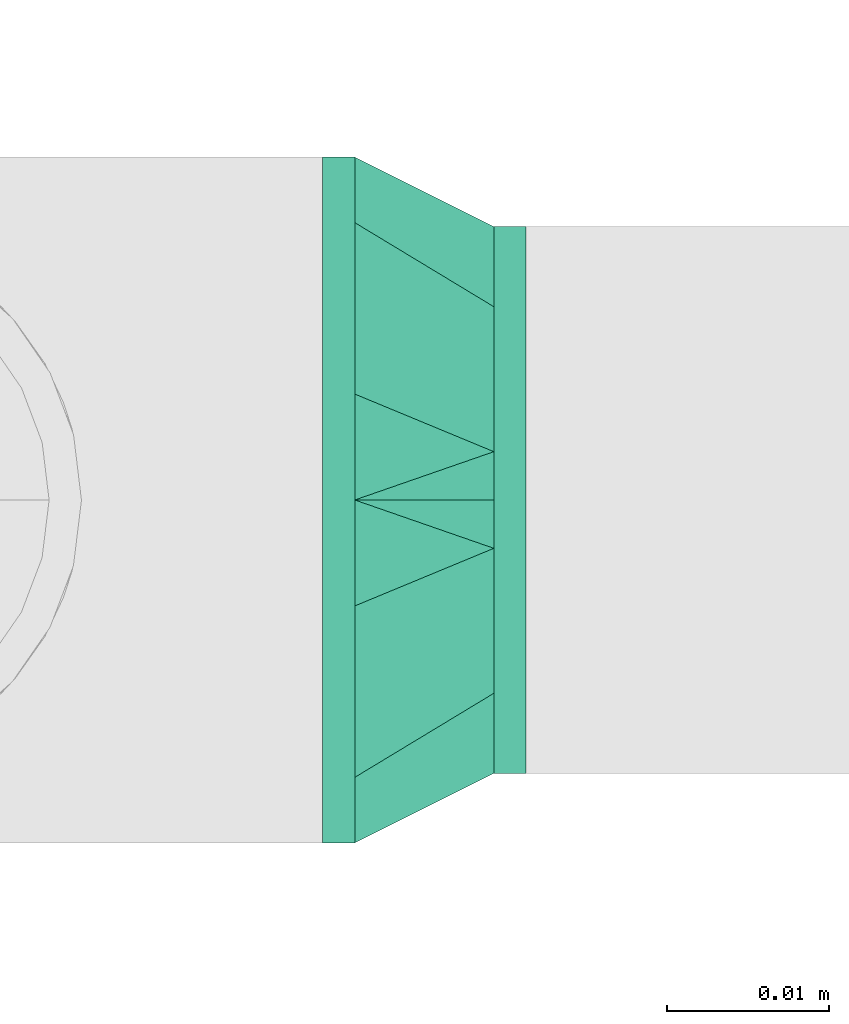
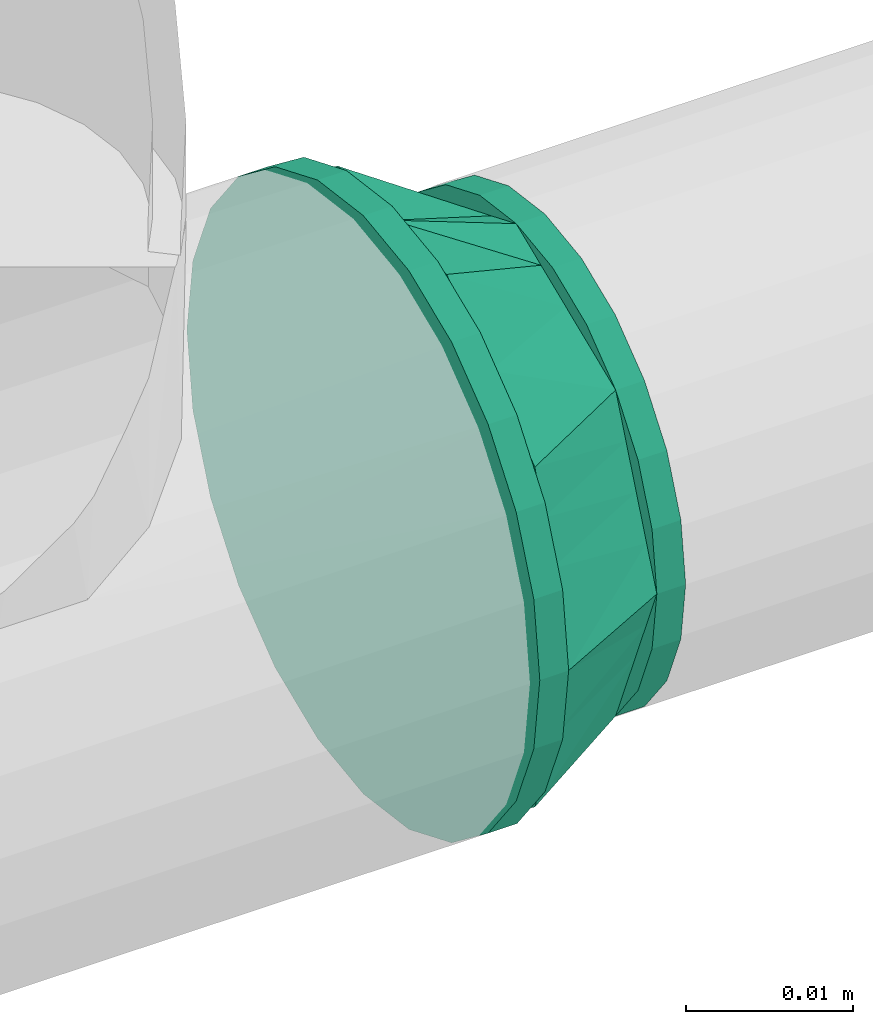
# One storey, part 94 of 94: 1 flow fitting.
"""IFC2X3 building model written with IfcOpenShell, lengths in millimetres."""

from ifc_helpers import new_model, entity, si_unit, converted_unit, derived_unit, direction, frame, origin_with_axes, place, context, subcontext, project, spatial, open_shell, surface_model, source, transform, mapped, type_object, element, save


model = new_model("IFC2X3")

# Units and contexts
model_context = context("Model", 3, precision=0.01, world=frame((0.0, 4.29681676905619e-09, 0.0)), true_north=direction((4.01073788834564e-13, 1.0)))
plan_context = context("Plan", 3, precision=0.01, world=frame((0.0, 4.29681676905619e-09, 0.0)), true_north=direction((4.01073788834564e-13, 1.0)))
body_context = subcontext(model_context, "Body", "Model", "MODEL_VIEW")
ifc_project = project(units=[converted_unit("PLANEANGLEUNIT", "DEGREE", entity("IfcPositiveLengthMeasure", 0.0174532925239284), si_unit("PLANEANGLEUNIT", "RADIAN"), dimensions=[0, 0, 0, 0, 0, 0, 0]), si_unit("AREAUNIT", "SQUARE_METRE"), si_unit("LENGTHUNIT", "METRE", prefix="MILLI"), si_unit("MASSUNIT", "GRAM", prefix="KILO"), si_unit("POWERUNIT", "WATT"), si_unit("PRESSUREUNIT", "PASCAL", prefix="KILO"), si_unit("FORCEUNIT", "NEWTON", prefix="KILO"), si_unit("ELECTRICVOLTAGEUNIT", "VOLT"), si_unit("ELECTRICCURRENTUNIT", "AMPERE"), si_unit("THERMODYNAMICTEMPERATUREUNIT", "DEGREE_CELSIUS"), si_unit("TIMEUNIT", "SECOND"), si_unit("VOLUMEUNIT", "CUBIC_METRE"), derived_unit("LINEARVELOCITYUNIT", [(si_unit("LENGTHUNIT", "METRE"), 1), (si_unit("TIMEUNIT", "SECOND"), -1)]), derived_unit("VOLUMETRICFLOWRATEUNIT", [(si_unit("VOLUMEUNIT", "CUBIC_METRE"), 1), (si_unit("TIMEUNIT", "SECOND"), -1)]), derived_unit("THERMALTRANSMITTANCEUNIT", [(si_unit("POWERUNIT", "WATT"), 1), (si_unit("THERMODYNAMICTEMPERATUREUNIT", "KELVIN"), -1), (si_unit("AREAUNIT", "SQUARE_METRE"), -1)]), derived_unit("SOUNDPRESSUREUNIT", [(si_unit("PRESSUREUNIT", "PASCAL"), 1)])], contexts=[model_context, plan_context])

# Site, building, storey
site_placement = place(None, frame((0.0, -4.29681676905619e-09, 0.0), z_axis=(0.0, 0.0, 1.0), x_axis=(1.0, 0.0, 0.0)))
site = spatial("IfcSite", under=ifc_project, at=site_placement, CompositionType="ELEMENT")
building_placement = place(site_placement, frame((0.0, 4.29681676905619e-09, 0.0), z_axis=(0.0, 0.0, 1.0), x_axis=(1.0, 0.0, 0.0)))
building = spatial("IfcBuilding", under=site, at=building_placement, Name="mc-building", CompositionType="ELEMENT")
storey_placement = place(building_placement, frame((0.0, 0.0, 210900.0), z_axis=(0.0, 0.0, 1.0), x_axis=(1.0, 0.0, 0.0)))
storey = spatial("IfcBuildingStorey", under=building, at=storey_placement, Name="Nivå F", CompositionType="ELEMENT", Elevation=210900.0)

# Flow fitting
pipe_fitting_type = type_object("IfcPipeFittingType", Name="magi_pipe_fe_reducer_centric_short_NOR", PredefinedType="TRANSITION")
shared_shape = source(origin_with_axes(), body_context, "Body", "SurfaceModel", [
    surface_model("IfcShellBasedSurfaceModel", [(10.6, -11.9501, -11.9501), (10.6, -8.45, -14.63583), (10.6, -4.37404, -16.32415), (10.6, 8.45, -14.63583), (10.6, 16.9, 0.0), (10.6, -14.63583, -8.45), (10.6, -16.32415, -4.37404), (10.6, -4.37404, 16.32415), (10.6, 4.37404, -16.32415), (10.6, 0.0, -16.9), (10.6, 14.63583, -8.45), (10.6, 16.32415, -4.37404), (10.6, 11.9501, -11.9501), (10.6, -16.32415, 4.37404), (10.6, -16.9, 0.0), (10.6, -11.9501, 11.9501), (10.6, -14.63583, 8.45), (10.6, -8.45, 14.63583), (10.6, 0.0, 16.9), (10.6, 16.32415, 4.37404), (10.6, 14.63583, 8.45), (10.6, 11.9501, 11.9501), (10.6, 8.45, 14.63583), (10.6, 4.37404, 16.32415), (8.6, 0.0, 16.9), (8.6, 14.63583, 8.45), (8.6, -4.37404, 16.32415), (8.6, -8.45, 14.63583), (8.6, -16.32415, 4.37404), (8.6, -14.63583, 8.45), (8.6, -11.9501, 11.9501), (8.6, 11.9501, 11.9501), (8.6, 8.45, 14.63583), (8.6, 4.37404, 16.32415), (8.6, 16.32415, 4.37404), (8.6, 16.9, 0.0), (8.6, 16.32415, -4.37404), (8.6, 8.45, -14.63583), (8.6, -11.9501, -11.9501), (8.6, -16.32415, -4.37404), (8.6, -14.63583, -8.45), (8.6, -4.37404, -16.32415), (8.6, -8.45, -14.63583), (8.6, 14.63583, -8.45), (8.6, 11.9501, -11.9501), (8.6, 4.37404, -16.32415), (8.6, 0.0, -16.9), (8.6, -16.9, 0.0), (-2.0, -10.6, 18.35974), (-2.0, -5.48696, 20.47763), (-2.0, 0.0, 21.2), (-2.0, -14.99066, 14.99066), (-2.0, -20.47763, 5.48696), (-2.0, -18.35974, 10.6), (-2.0, 14.99066, -14.99066), (-2.0, 21.2, 0.0), (-2.0, 10.6, 18.35974), (-2.0, 14.99066, 14.99066), (-2.0, 5.48696, 20.47763), (-2.0, 20.47763, 5.48696), (-2.0, 18.35974, 10.6), (-2.0, -10.6, -18.35974), (-2.0, -20.47763, -5.48696), (-2.0, -18.35974, -10.6), (-2.0, -14.99066, -14.99066), (-2.0, 0.0, -21.2), (-2.0, -5.48696, -20.47763), (-2.0, 20.47763, -5.48696), (-2.0, 18.35974, -10.6), (-2.0, 5.48696, -20.47763), (-2.0, 10.6, -18.35974), (-2.0, -21.2, 0.0), (0.0, -5.48696, -20.47763), (0.0, 0.0, -21.2), (0.0, -10.6, -18.35974), (0.0, -14.99066, -14.99066), (0.0, -20.47763, -5.48696), (0.0, 21.2, 0.0), (0.0, -18.35974, -10.6), (0.0, 14.99066, -14.99066), (0.0, 5.48696, -20.47763), (0.0, 10.6, -18.35974), (0.0, 20.47763, -5.48696), (0.0, 18.35974, -10.6), (0.0, -21.2, 0.0), (0.0, -14.99066, 14.99066), (0.0, -18.35974, 10.6), (0.0, -20.47763, 5.48696), (0.0, 0.0, 21.2), (0.0, -5.48696, 20.47763), (0.0, -10.6, 18.35974), (0.0, 14.99066, 14.99066), (0.0, 20.47763, 5.48696), (0.0, 18.35974, 10.6), (0.0, 10.6, 18.35974), (0.0, 5.48696, 20.47763), (0.0, 17.15116, 12.46105), (0.0, -17.15116, 12.46105), (0.0, 6.55116, 20.1624), (0.0, -6.55116, 20.1624), (0.0, 6.55116, -20.1624), (0.0, -6.55116, -20.1624), (0.0, 17.15116, -12.46105), (0.0, -17.15116, -12.46105), (8.6, 13.18758, -8.96258), (8.6, 2.98753, -15.66253), (0.0, 0.0, -20.1624), (0.0, 18.16337, -9.34579), (0.0, 19.17558, -6.23052), (8.6, 14.42505, -5.97505), (8.6, -5.97505, -14.42505), (8.6, -8.96258, -13.18758), (0.0, -11.85116, -16.31172), (8.6, -2.98753, -15.66253), (8.6, -13.18758, -8.96258), (8.6, -14.42505, -5.97505), (0.0, -19.17558, -6.23052), (8.6, -15.66253, -2.98753), (8.6, 15.66253, -2.98753), (0.0, 11.85116, -16.31172), (8.6, 8.96258, -13.18758), (8.6, 5.97505, -14.42505), (8.6, -13.18758, 8.96258), (8.6, -2.98753, 15.66253), (0.0, 0.0, 20.1624), (0.0, -18.16337, 9.34579), (0.0, -19.17558, 6.23052), (8.6, -14.42505, 5.97505), (8.6, 5.97505, 14.42505), (8.6, 8.96258, 13.18758), (0.0, 11.85116, 16.31172), (8.6, 2.98753, 15.66253), (8.6, 13.18758, 8.96258), (8.6, 14.42505, 5.97505), (0.0, 19.17558, 6.23052), (8.6, 15.66253, 2.98753), (8.6, -15.66253, 2.98753), (0.0, -11.85116, 16.31172), (8.6, -8.96258, 13.18758), (8.6, -5.97505, 14.42505)], [open_shell([[[0, 1, 2]], [[0, 2, 3]], [[3, 4, 0]], [[5, 0, 6]], [[0, 7, 6]], [[8, 3, 9]], [[3, 2, 9]], [[10, 11, 12]], [[3, 12, 11]], [[11, 4, 3]], [[13, 14, 6]], [[15, 16, 13]], [[7, 15, 13]], [[0, 4, 7]], [[17, 15, 7]], [[18, 7, 4]], [[19, 20, 18]], [[18, 4, 19]], [[21, 22, 20]], [[22, 18, 20]], [[23, 18, 22]], [[13, 6, 7]], [[24, 25, 26]], [[27, 26, 28]], [[28, 29, 30]], [[27, 28, 30]], [[28, 26, 25]], [[31, 25, 32]], [[24, 33, 32]], [[32, 25, 24]], [[28, 25, 34]], [[35, 36, 34]], [[37, 28, 34]], [[38, 39, 28]], [[40, 39, 38]], [[41, 42, 38]], [[38, 28, 37]], [[38, 37, 41]], [[43, 44, 36]], [[37, 36, 44]], [[45, 46, 37]], [[37, 34, 36]], [[37, 46, 41]], [[47, 28, 39]], [[35, 11, 36]], [[36, 10, 43]], [[37, 44, 3]], [[12, 44, 43]], [[45, 37, 8]], [[11, 10, 36]], [[35, 4, 11]], [[37, 3, 8]], [[3, 44, 12]], [[43, 10, 12]], [[45, 8, 9]], [[9, 46, 45]], [[46, 2, 41]], [[41, 1, 42]], [[40, 38, 5]], [[0, 38, 42]], [[39, 40, 6]], [[1, 0, 42]], [[41, 2, 1]], [[39, 6, 14]], [[6, 40, 5]], [[38, 0, 5]], [[39, 14, 47]], [[9, 2, 46]], [[47, 13, 28]], [[28, 16, 29]], [[27, 30, 17]], [[15, 30, 29]], [[26, 27, 7]], [[13, 16, 28]], [[47, 14, 13]], [[27, 17, 7]], [[17, 30, 15]], [[29, 16, 15]], [[26, 7, 18]], [[18, 24, 26]], [[24, 23, 33]], [[33, 22, 32]], [[25, 31, 20]], [[21, 31, 32]], [[34, 25, 19]], [[22, 21, 32]], [[33, 23, 22]], [[34, 19, 4]], [[19, 25, 20]], [[31, 21, 20]], [[34, 4, 35]], [[18, 23, 24]], [[48, 49, 50]], [[51, 48, 50]], [[52, 53, 51]], [[50, 52, 51]], [[54, 50, 55]], [[56, 57, 58]], [[57, 50, 58]], [[59, 55, 60]], [[50, 57, 60]], [[50, 60, 55]], [[54, 52, 50]], [[61, 62, 52]], [[63, 62, 64]], [[61, 52, 54]], [[64, 62, 61]], [[61, 65, 66]], [[67, 68, 55]], [[55, 68, 54]], [[69, 65, 70]], [[61, 54, 70]], [[61, 70, 65]], [[71, 52, 62]], [[72, 73, 74]], [[75, 74, 76]], [[77, 76, 74]], [[78, 75, 76]], [[74, 79, 77]], [[80, 81, 73]], [[81, 74, 73]], [[82, 77, 83]], [[79, 74, 81]], [[77, 79, 83]], [[76, 77, 84]], [[85, 86, 87]], [[88, 85, 87]], [[88, 89, 90]], [[85, 88, 90]], [[91, 88, 87]], [[92, 93, 77]], [[91, 77, 93]], [[94, 95, 91]], [[87, 77, 91]], [[91, 95, 88]], [[84, 77, 87]], [[55, 82, 67]], [[67, 83, 68]], [[70, 54, 81]], [[79, 54, 68]], [[69, 70, 80]], [[82, 83, 67]], [[55, 77, 82]], [[70, 81, 80]], [[81, 54, 79]], [[68, 83, 79]], [[69, 80, 73]], [[73, 65, 69]], [[65, 72, 66]], [[66, 74, 61]], [[63, 64, 78]], [[75, 64, 61]], [[62, 63, 76]], [[74, 75, 61]], [[66, 72, 74]], [[62, 76, 84]], [[76, 63, 78]], [[64, 75, 78]], [[62, 84, 71]], [[73, 72, 65]], [[71, 87, 52]], [[52, 86, 53]], [[48, 51, 90]], [[85, 51, 53]], [[49, 48, 89]], [[87, 86, 52]], [[71, 84, 87]], [[48, 90, 89]], [[90, 51, 85]], [[53, 86, 85]], [[49, 89, 88]], [[88, 50, 49]], [[50, 95, 58]], [[58, 94, 56]], [[60, 57, 93]], [[91, 57, 56]], [[59, 60, 92]], [[94, 91, 56]], [[58, 95, 94]], [[59, 92, 77]], [[92, 60, 93]], [[57, 91, 93]], [[59, 77, 55]], [[88, 95, 50]], [[30, 35, 31]], [[31, 24, 30]], [[30, 38, 35]], [[46, 35, 38]], [[38, 30, 47]], [[44, 35, 46]], [[96, 84, 97]], [[98, 96, 99]], [[97, 99, 96]], [[96, 100, 84]], [[84, 100, 101]], [[96, 77, 102]], [[102, 100, 96]], [[84, 101, 103]], [[104, 44, 102]], [[100, 105, 106]], [[107, 108, 109]], [[110, 111, 112]], [[38, 103, 112]], [[112, 101, 110]], [[46, 113, 106]], [[114, 115, 103]], [[106, 113, 101]], [[116, 117, 84]], [[35, 118, 77]], [[119, 102, 44]], [[120, 121, 119]], [[118, 108, 77]], [[113, 110, 101]], [[100, 121, 105]], [[116, 103, 115]], [[46, 106, 105]], [[103, 38, 114]], [[47, 84, 117]], [[108, 118, 109]], [[107, 104, 102]], [[107, 109, 104]], [[111, 38, 112]], [[100, 119, 121]], [[119, 44, 120]], [[116, 115, 117]], [[122, 30, 97]], [[99, 123, 124]], [[125, 126, 127]], [[128, 129, 130]], [[31, 96, 130]], [[130, 98, 128]], [[24, 131, 124]], [[132, 133, 96]], [[124, 131, 98]], [[134, 135, 77]], [[47, 136, 84]], [[137, 97, 30]], [[138, 139, 137]], [[136, 126, 84]], [[131, 128, 98]], [[99, 139, 123]], [[134, 96, 133]], [[24, 124, 123]], [[96, 31, 132]], [[35, 77, 135]], [[126, 136, 127]], [[125, 122, 97]], [[125, 127, 122]], [[129, 31, 130]], [[99, 137, 139]], [[137, 30, 138]], [[134, 133, 135]]])]),
])
flow_fitting_placement = place(storey_placement, frame((723402.63068, 435194.37907, 3600.0), z_axis=(0.0, 0.0, 1.0), x_axis=(1.0, 0.0, 0.0)))
element("IfcFlowFitting", 1, at=flow_fitting_placement, inside=storey, type_object=pipe_fitting_type, Name="magi_pipe_fe_reducer_centric_short_NOR", context=body_context, shape_type="MappedRepresentation", body=[
    mapped(shared_shape, transform((0.0, 0.0, 0.0), scale=1.0)),
])

save(model, "model.ifc")
